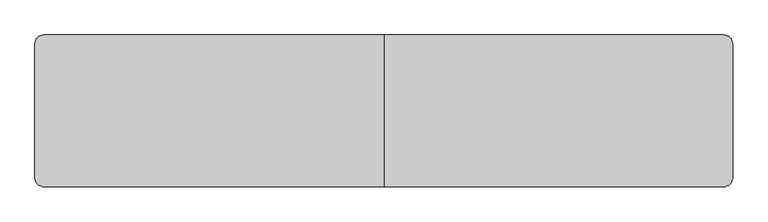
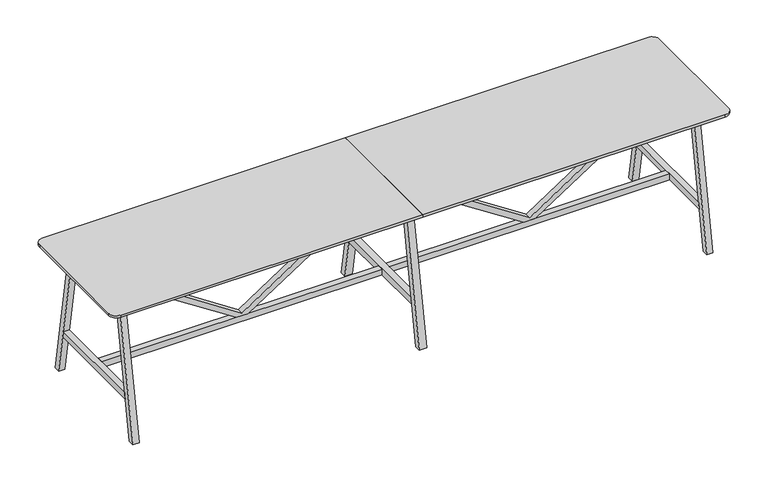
"""IFC4 building model written with IfcOpenShell, lengths in millimetres: furniture geometry, BDG_BossDesign_Tbls_AgentTables6Legs : AGE-HT-6L-4600-1000-3D."""

from ifc_helpers import new_model, si_unit, point, frame, frame_2d, origin, place, context, project, spatial, polyline, circle_curve, trimmed, segment, composite_curve, outline, extrude, source, transform, mapped, element, save


def furniture_86d8b4d1(model_context):
    return source(origin(), model_context, "Body", "SweptSolid", [
        extrude(outline(polyline([(345.0, 1024.0823957), (345.0, 1108.4176043), (992.0, 2105.0), (1032.0, 2105.0), (1032.0, 2085.0), (365.0, 1066.25), (1032.0, 47.5), (1032.0, 27.5), (992.0, 27.5), (345.0, 1024.0823957)])), frame((0.0, -22.5000305, 0.0), z_axis=(0.0, 1.0, 0.0), x_axis=(0.0, 0.0, 1.0)), (0.0, 0.0, 1.0), 45.000061),
        extrude(outline(polyline([(345.0, -1024.0823957), (992.0, -27.5), (1032.0, -27.5), (1032.0, -47.5), (365.0, -1066.25), (1032.0, -2085.0), (1032.0, -2105.0), (992.0, -2105.0), (345.0, -1108.4176043), (345.0, -1024.0823957)])), frame((0.0, -22.5000305, 0.0), z_axis=(0.0, 1.0, 0.0), x_axis=(0.0, 0.0, 1.0)), (0.0, 0.0, 1.0), 45.000061),
        extrude(outline(polyline([(500.0, 0.0), (454.9999949, 0.0), (285.5, 970.0), (330.5000051, 970.0), (500.0, 0.0)])), frame((-27.5, 0.0, 0.0), z_axis=(1.0, 0.0, 0.0), x_axis=(0.0, 1.0, 0.0)), (0.0, 0.0, 1.0), 55.0),
        extrude(outline(polyline([(-500.0, 0.0), (-330.5000051, 970.0), (-285.5, 970.0), (-454.9999949, 0.0), (-500.0, 0.0)])), frame((-27.5, 0.0, 0.0), z_axis=(1.0, 0.0, 0.0), x_axis=(0.0, 1.0, 0.0)), (0.0, 0.0, 1.0), 55.0),
        extrude(outline(polyline([(402.5773161, 300.0), (-402.5773161, 300.0), (-394.7139143, 345.0), (394.7139143, 345.0), (402.5773161, 300.0)])), frame((-27.5, 0.0, 0.0), z_axis=(1.0, 0.0, 0.0), x_axis=(0.0, 1.0, 0.0)), (0.0, 0.0, 1.0), 55.0),
        extrude(outline(composite_curve([segment(polyline([(0.0, 500.0), (0.0, -500.0), (-2240.0, -500.0)]), True, "CONTINUOUS"), segment(trimmed(circle_curve(frame_2d((-2240.0, -440.0)), 60.0), [point((-2240.0, -500.0))], [point((-2300.0, -440.0))], False, "CARTESIAN"), True, "CONTINUOUS"), segment(polyline([(-2300.0, -440.0), (-2300.0, 440.0)]), True, "CONTINUOUS"), segment(trimmed(circle_curve(frame_2d((-2240.0, 440.0)), 60.0), [point((-2300.0, 440.0))], [point((-2240.0, 500.0))], False, "CARTESIAN"), True, "CONTINUOUS"), segment(polyline([(-2240.0, 500.0), (0.0, 500.0)]), True, "CONTINUOUS")], self_intersect=False)), frame((0.0, 0.0, 1032.0), z_axis=(0.0, 0.0, 1.0), x_axis=(1.0, 0.0, 0.0)), (0.0, 0.0, 1.0), 18.0),
        extrude(outline(polyline([(-394.7139143, 345.0), (394.7139143, 345.0), (402.5773161, 300.0), (-402.5773161, 300.0), (-394.7139143, 345.0)])), frame((2105.0, 0.0, 0.0), z_axis=(1.0, 0.0, 0.0), x_axis=(0.0, 1.0, 0.0)), (0.0, 0.0, 1.0), 45.0),
        extrude(outline(polyline([(500.0, 0.0), (454.9999949, 0.0), (285.5, 970.0), (330.5000051, 970.0), (500.0, 0.0)])), frame((-2150.0, 0.0, 0.0), z_axis=(1.0, 0.0, 0.0), x_axis=(0.0, 1.0, 0.0)), (0.0, 0.0, 1.0), 45.0),
        extrude(outline(polyline([(-500.0, 0.0), (-330.5000051, 970.0), (-285.5, 970.0), (-454.9999949, 0.0), (-500.0, 0.0)])), frame((-2150.0, 0.0, 0.0), z_axis=(1.0, 0.0, 0.0), x_axis=(0.0, 1.0, 0.0)), (0.0, 0.0, 1.0), 45.0),
        extrude(outline(polyline([(-394.7139143, 345.0), (394.7139143, 345.0), (402.5773161, 300.0), (-402.5773161, 300.0), (-394.7139143, 345.0)])), frame((-2150.0, 0.0, 0.0), z_axis=(1.0, 0.0, 0.0), x_axis=(0.0, 1.0, 0.0)), (0.0, 0.0, 1.0), 45.0),
        extrude(outline(polyline([(-326.6006165, 944.973938), (-304.2770691, 1032.0), (-279.5, 1032.0), (-301.8235474, 944.973938), (-326.6006165, 944.973938)])), frame((-2105.0, 0.0, 0.0), z_axis=(1.0, 0.0, 0.0), x_axis=(0.0, 1.0, 0.0)), (0.0, 0.0, 1.0), 4210.0),
        extrude(outline(polyline([(326.6006165, 944.973938), (301.8235474, 944.973938), (279.5, 1032.0), (304.2770691, 1032.0), (326.6006165, 944.973938)])), frame((-2105.0, 0.0, 0.0), z_axis=(1.0, 0.0, 0.0), x_axis=(0.0, 1.0, 0.0)), (0.0, 0.0, 1.0), 4210.0),
        extrude(outline(polyline([(499.7999878, 0.0), (454.7999827, 0.0), (285.5, 970.0), (330.5000051, 970.0), (499.7999878, 0.0)])), frame((2105.0, 0.0, 0.0), z_axis=(1.0, 0.0, 0.0), x_axis=(0.0, 1.0, 0.0)), (0.0, 0.0, 1.0), 45.0),
        extrude(outline(polyline([(-499.7999878, 0.0), (-330.5000051, 970.0), (-285.5, 970.0), (-454.7999827, 0.0), (-499.7999878, 0.0)])), frame((2105.0, 0.0, 0.0), z_axis=(1.0, 0.0, 0.0), x_axis=(0.0, 1.0, 0.0)), (0.0, 0.0, 1.0), 45.0),
        extrude(outline(polyline([(-27.5, 22.5000305), (-27.5, -22.5000305), (-2105.0, -22.5000305), (-2105.0, 22.5000305), (-27.5, 22.5000305)])), frame((0.0, 0.0, 300.0), z_axis=(0.0, 0.0, 1.0), x_axis=(1.0, 0.0, 0.0)), (0.0, 0.0, 1.0), 45.0),
        extrude(outline(polyline([(27.5, -22.5000305), (27.5, 22.5000305), (2105.0, 22.5000305), (2105.0, -22.5000305), (27.5, -22.5000305)])), frame((0.0, 0.0, 300.0), z_axis=(0.0, 0.0, 1.0), x_axis=(1.0, 0.0, 0.0)), (0.0, 0.0, 1.0), 45.0),
        extrude(outline(composite_curve([segment(trimmed(circle_curve(frame_2d((2240.0, 440.0)), 60.0), [point((2240.0, 500.0))], [point((2300.0, 440.0))], False, "CARTESIAN"), True, "CONTINUOUS"), segment(polyline([(2300.0, 440.0), (2300.0, -440.0)]), True, "CONTINUOUS"), segment(trimmed(circle_curve(frame_2d((2240.0, -440.0)), 60.0), [point((2300.0, -440.0))], [point((2240.0, -500.0))], False, "CARTESIAN"), True, "CONTINUOUS"), segment(polyline([(2240.0, -500.0), (0.0, -500.0), (0.0, 500.0), (2240.0, 500.0)]), True, "CONTINUOUS")], self_intersect=False)), frame((0.0, 0.0, 1032.0), z_axis=(0.0, 0.0, 1.0), x_axis=(1.0, 0.0, 0.0)), (0.0, 0.0, 1.0), 18.0),
    ])


if __name__ == "__main__":
    model = new_model("IFC4")
    model_context = context("Model", 3, world=origin())
    ifc_project = project(units=[si_unit("LENGTHUNIT", "METRE", prefix="MILLI")], contexts=[model_context])
    site = spatial("IfcSite", under=ifc_project)
    building = spatial("IfcBuilding", under=site)
    placement = place(None, origin())
    furniture_shape = furniture_86d8b4d1(model_context)
    element("IfcFurniture", 1, ObjectType="BDG_BossDesign_Tbls_AgentTables6Legs : AGE-HT-6L-4600-1000-3D", at=placement, inside=building, context=model_context, shape_type="MappedRepresentation", body=[
        mapped(furniture_shape, transform((0.0, 0.0, 0.0), x_axis=(1.0, 0.0, 0.0), y_axis=(0.0, 1.0, 0.0), z_axis=(0.0, 0.0, 1.0))),
    ])
    save(model, "model.ifc")
